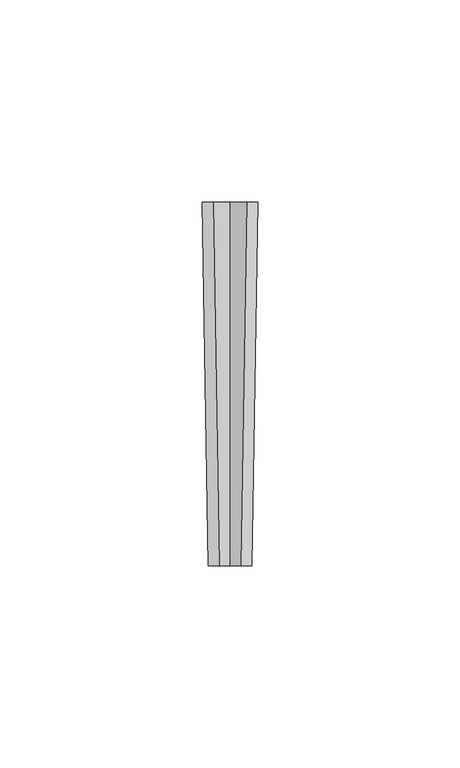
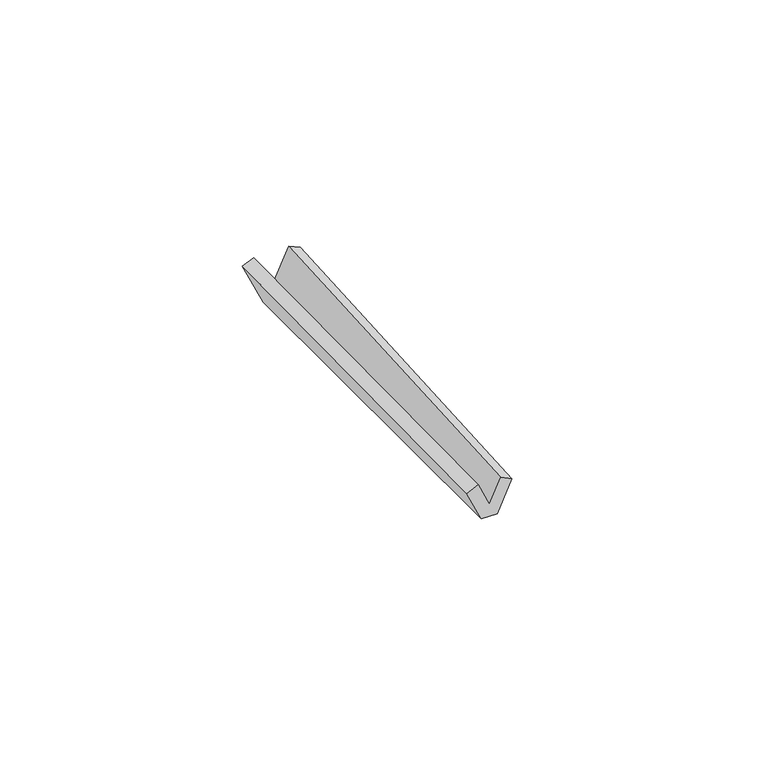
"""IFC4 building model written with IfcOpenShell, lengths in millimetres: unitary equipment geometry, NLRS_52_ME_FB_Geberit Pluvia bevestigingskeg_PRO_101965 : 362.865.26.1 Geberit Pluvia bevestigingskeg."""

from ifc_helpers import new_model, si_unit, origin, place, context, project, spatial, faceted_brep, source, transform, mapped, element, save


def unitary_equipment_7aeff83b(model_context):
    return source(origin(), model_context, "Body", "Brep", [
        faceted_brep([(-6.9, 90.0, 10.7321452), (-4.1810766, 90.0, 12.0), (0.0, 90.0, 3.0336522), (4.1810766, 90.0, 12.0), (6.9, 90.0, 10.7321452), (1.8955185, 90.0, 0.0), (-1.8955185, 90.0, 0.0), (-5.4, 0.0, 7.5321452), (-1.887703, 0.0, 0.0), (1.887703, 0.0, 0.0), (5.4, 0.0, 7.5321452), (2.6810766, 0.0, 8.8), (0.0, 0.0, 3.0504126), (-2.6810766, 0.0, 8.8)], [[[0, 1, 2, 3, 4, 5, 6]], [[7, 8, 9, 10, 11, 12, 13]], [[7, 13, 1, 0]], [[13, 12, 2, 1]], [[12, 11, 3, 2]], [[11, 10, 4, 3]], [[10, 9, 5, 4]], [[9, 8, 6, 5]], [[8, 7, 0, 6]]]),
    ])


if __name__ == "__main__":
    model = new_model("IFC4")
    model_context = context("Model", 3, world=origin())
    ifc_project = project(units=[si_unit("LENGTHUNIT", "METRE", prefix="MILLI")], contexts=[model_context])
    site = spatial("IfcSite", under=ifc_project)
    building = spatial("IfcBuilding", under=site)
    placement = place(None, origin())
    unitary_equipment_shape = unitary_equipment_7aeff83b(model_context)
    element("IfcUnitaryEquipment", 1, ObjectType="NLRS_52_ME_FB_Geberit Pluvia bevestigingskeg_PRO_101965 : 362.865.26.1 Geberit Pluvia bevestigingskeg", at=placement, inside=building, context=model_context, shape_type="MappedRepresentation", body=[
        mapped(unitary_equipment_shape, transform((0.0, 0.0, 0.0), x_axis=(1.0, 0.0, 0.0), y_axis=(0.0, 1.0, 0.0), z_axis=(0.0, 0.0, 1.0))),
    ])
    save(model, "model.ifc")
